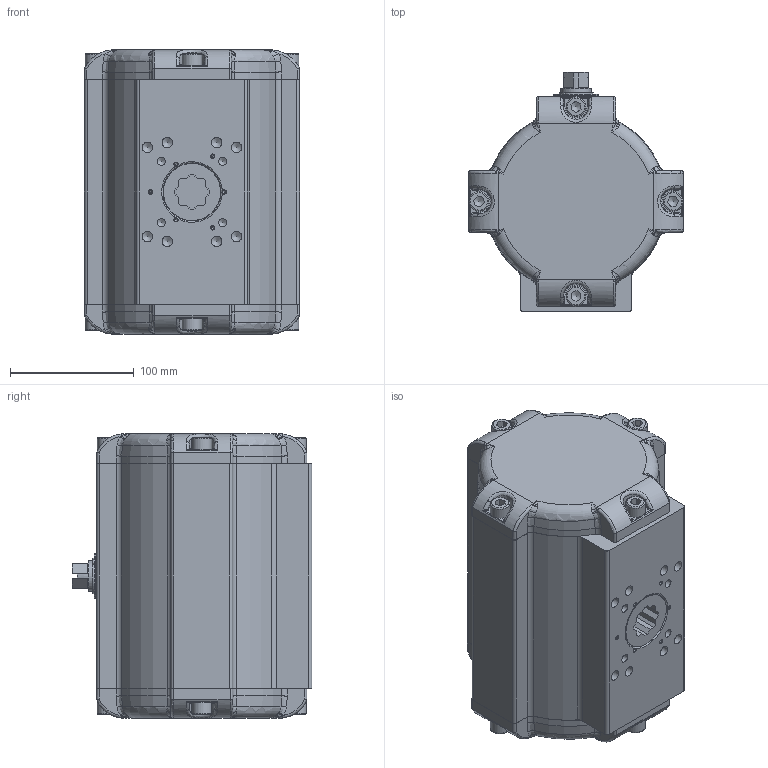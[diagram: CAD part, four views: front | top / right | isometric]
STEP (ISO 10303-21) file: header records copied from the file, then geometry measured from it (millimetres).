
FILE_DESCRIPTION((''),'2;1');
FILE_NAME('C:\Users\war\Desktop\SAD 30 BR16.stp','2016-10-06T15:57:27',('war'),(''),'Autodesk Inventor 2013','Autodesk Inventor 2013','');
FILE_SCHEMA(('AUTOMOTIVE_DESIGN { 1 0 10303 214 1 1 1 1 }'));
Length unit declared in the file: millimetre
Products named in the file (1): ENG-030692_Shrinkwrap_1
Bounding box: 174 x 193.8 x 230 mm (x, y, z)
Surface area: 227556.9 mm2 (no closed solid volume)
Topology: 0 solids, 29 shells, 551 faces, 1653 edges, 1075 vertices
Faces by surface type: plane 164, cylinder 149, bspline 137, cone 52, torus 49
Full cylindrical faces by diameter (mm): 2 x2, 2.5 x6, 4.134 x8, 4.917 x1, 6.647 x4, 8.376 x8, 11.445 x2, 16 x8, 20 x1, 24.8 x1, 25 x1, 36 x2
Entity records: 22168 total; most frequent: CARTESIAN_POINT 8403, ORIENTED_EDGE 2578, DIRECTION 2462, EDGE_CURVE 1507, VERTEX_POINT 1035, AXIS2_PLACEMENT_3D 981, EDGE_LOOP 677, FACE_OUTER_BOUND 551
